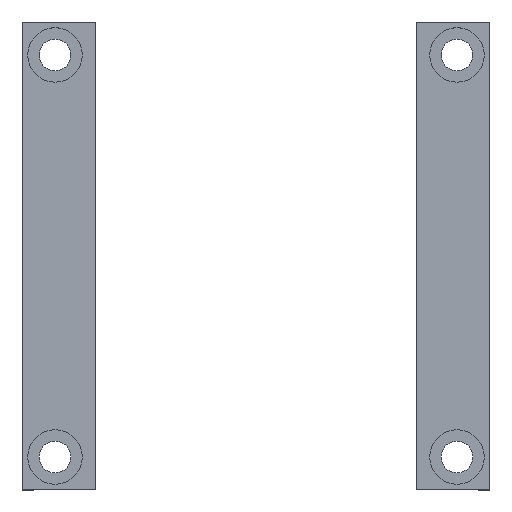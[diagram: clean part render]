
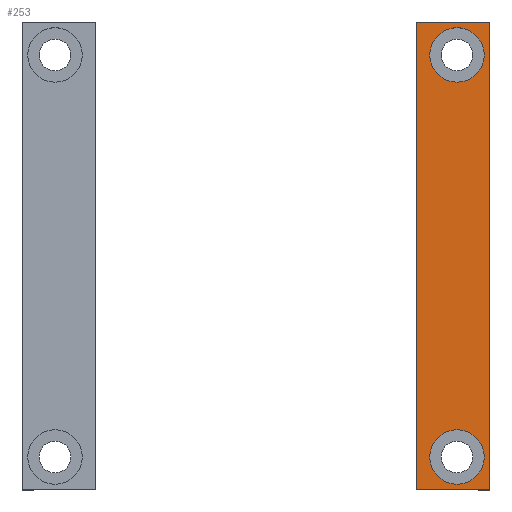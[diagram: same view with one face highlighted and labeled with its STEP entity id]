
A CAD part, top view. The second image highlights one B-rep face of the part: STEP entity #253.
In plain terms, the highlighted planar face has unit normal (0, 0, 1) as drawn and (0, 1, 0) by its records, which use the part's own axes.
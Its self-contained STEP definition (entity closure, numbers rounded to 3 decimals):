
#7 = EDGE_CURVE ( 'NONE', #218, #790, #97, .T. ) ;
#25 = VERTEX_POINT ( 'NONE', #297 ) ;
#27 = VERTEX_POINT ( 'NONE', #366 ) ;
#29 = ORIENTED_EDGE ( 'NONE', *, *, #820, .F. ) ;
#31 = ORIENTED_EDGE ( 'NONE', *, *, #7, .F. ) ;
#37 = EDGE_CURVE ( 'NONE', #732, #27, #439, .T. ) ;
#38 = EDGE_LOOP ( 'NONE', ( #408, #31 ) ) ;
#55 = LINE ( 'NONE', #57, #58 ) ;
#57 = CARTESIAN_POINT ( 'NONE',  ( 0., 4.2, -20.6 ) ) ;
#58 = VECTOR ( 'NONE', #59, 1000. ) ;
#59 = DIRECTION ( 'NONE',  ( -1., 0., 0. ) ) ;
#92 = VERTEX_POINT ( 'NONE', #168 ) ;
#97 = CIRCLE ( 'NONE', #98, 2.4 ) ;
#98 = AXIS2_PLACEMENT_3D ( 'NONE', #99, #100, #101 ) ;
#99 = CARTESIAN_POINT ( 'NONE',  ( -2.9, 4.2, 17.7 ) ) ;
#100 = DIRECTION ( 'NONE',  ( 0., 1., 0. ) ) ;
#101 = DIRECTION ( 'NONE',  ( 0., 0., 1. ) ) ;
#146 = EDGE_CURVE ( 'NONE', #790, #218, #186, .T. ) ;
#164 = EDGE_CURVE ( 'NONE', #719, #763, #206, .T. ) ;
#168 = CARTESIAN_POINT ( 'NONE',  ( -6.5, 4.2, -20.6 ) ) ;
#186 = CIRCLE ( 'NONE', #187, 2.4 ) ;
#187 = AXIS2_PLACEMENT_3D ( 'NONE', #188, #189, #190 ) ;
#188 = CARTESIAN_POINT ( 'NONE',  ( -2.9, 4.2, 17.7 ) ) ;
#189 = DIRECTION ( 'NONE',  ( 0., 1., 0. ) ) ;
#190 = DIRECTION ( 'NONE',  ( 0., 0., 1. ) ) ;
#206 = LINE ( 'NONE', #207, #208 ) ;
#207 = CARTESIAN_POINT ( 'NONE',  ( 0., 4.2, 20.6 ) ) ;
#208 = VECTOR ( 'NONE', #209, 1000. ) ;
#209 = DIRECTION ( 'NONE',  ( 0., 0., -1. ) ) ;
#210 = CIRCLE ( 'NONE', #211, 2.4 ) ;
#211 = AXIS2_PLACEMENT_3D ( 'NONE', #212, #213, #214 ) ;
#212 = CARTESIAN_POINT ( 'NONE',  ( -2.9, 4.2, -17.7 ) ) ;
#213 = DIRECTION ( 'NONE',  ( 0., 1., 0. ) ) ;
#214 = DIRECTION ( 'NONE',  ( 0., 0., 1. ) ) ;
#218 = VERTEX_POINT ( 'NONE', #256 ) ;
#233 = CARTESIAN_POINT ( 'NONE',  ( 0., 4.2, 20.6 ) ) ;
#253 = ADVANCED_FACE ( 'NONE', ( #269, #270, #273 ), #274, .F. ) ;
#256 = CARTESIAN_POINT ( 'NONE',  ( -2.9, 4.2, 15.3 ) ) ;
#269 = FACE_BOUND ( 'NONE', #38, .T. ) ;
#270 = FACE_OUTER_BOUND ( 'NONE', #805, .T. ) ;
#273 = FACE_BOUND ( 'NONE', #409, .T. ) ;
#274 = PLANE ( 'NONE',  #275 ) ;
#275 = AXIS2_PLACEMENT_3D ( 'NONE', #276, #277, #278 ) ;
#276 = CARTESIAN_POINT ( 'NONE',  ( 0., 4.2, 20.6 ) ) ;
#277 = DIRECTION ( 'NONE',  ( 0., -1., 0. ) ) ;
#278 = DIRECTION ( 'NONE',  ( 0., 0., -1. ) ) ;
#297 = CARTESIAN_POINT ( 'NONE',  ( -6.5, 4.2, 20.6 ) ) ;
#302 = CARTESIAN_POINT ( 'NONE',  ( -2.9, 4.2, -20.1 ) ) ;
#303 = CARTESIAN_POINT ( 'NONE',  ( -2.9, 4.2, 20.1 ) ) ;
#305 = LINE ( 'NONE', #306, #307 ) ;
#306 = CARTESIAN_POINT ( 'NONE',  ( 0., 4.2, 20.6 ) ) ;
#307 = VECTOR ( 'NONE', #308, 1000. ) ;
#308 = DIRECTION ( 'NONE',  ( -1., 0., 0. ) ) ;
#309 = LINE ( 'NONE', #310, #311 ) ;
#310 = CARTESIAN_POINT ( 'NONE',  ( -6.5, 4.2, 20.6 ) ) ;
#311 = VECTOR ( 'NONE', #312, 1000. ) ;
#312 = DIRECTION ( 'NONE',  ( 0., 0., -1. ) ) ;
#366 = CARTESIAN_POINT ( 'NONE',  ( -2.9, 4.2, -15.3 ) ) ;
#408 = ORIENTED_EDGE ( 'NONE', *, *, #146, .F. ) ;
#409 = EDGE_LOOP ( 'NONE', ( #746, #824 ) ) ;
#438 = CARTESIAN_POINT ( 'NONE',  ( 0., 4.2, -20.6 ) ) ;
#439 = CIRCLE ( 'NONE', #440, 2.4 ) ;
#440 = AXIS2_PLACEMENT_3D ( 'NONE', #441, #442, #443 ) ;
#441 = CARTESIAN_POINT ( 'NONE',  ( -2.9, 4.2, -17.7 ) ) ;
#442 = DIRECTION ( 'NONE',  ( 0., 1., 0. ) ) ;
#443 = DIRECTION ( 'NONE',  ( 0., 0., 1. ) ) ;
#445 = EDGE_CURVE ( 'NONE', #763, #92, #55, .T. ) ;
#482 = ORIENTED_EDGE ( 'NONE', *, *, #445, .T. ) ;
#717 = EDGE_CURVE ( 'NONE', #27, #732, #210, .T. ) ;
#719 = VERTEX_POINT ( 'NONE', #233 ) ;
#730 = ORIENTED_EDGE ( 'NONE', *, *, #735, .F. ) ;
#732 = VERTEX_POINT ( 'NONE', #302 ) ;
#735 = EDGE_CURVE ( 'NONE', #719, #25, #305, .T. ) ;
#746 = ORIENTED_EDGE ( 'NONE', *, *, #717, .F. ) ;
#763 = VERTEX_POINT ( 'NONE', #438 ) ;
#790 = VERTEX_POINT ( 'NONE', #303 ) ;
#805 = EDGE_LOOP ( 'NONE', ( #482, #29, #730, #833 ) ) ;
#820 = EDGE_CURVE ( 'NONE', #25, #92, #309, .T. ) ;
#824 = ORIENTED_EDGE ( 'NONE', *, *, #37, .F. ) ;
#833 = ORIENTED_EDGE ( 'NONE', *, *, #164, .T. ) ;
